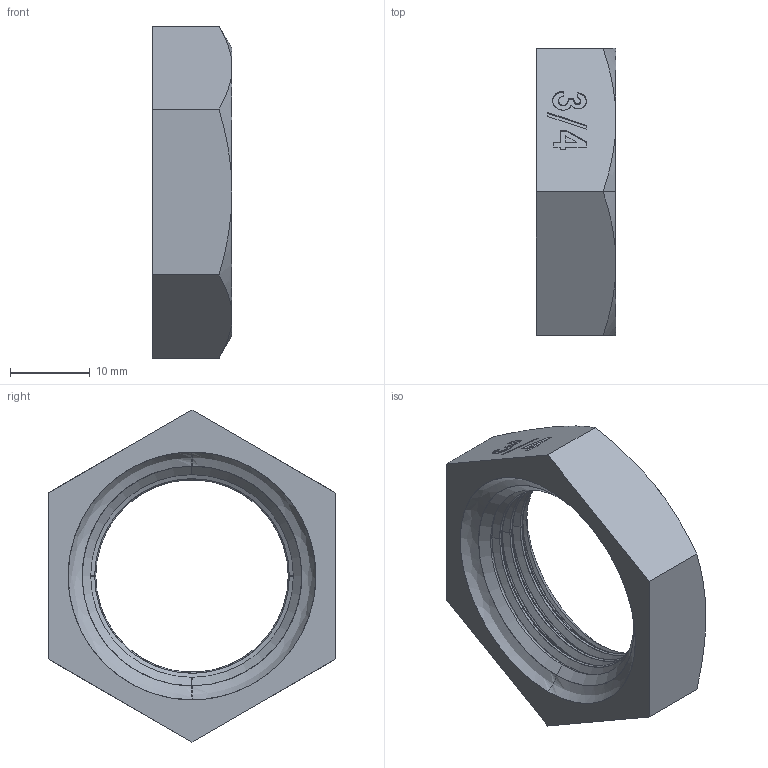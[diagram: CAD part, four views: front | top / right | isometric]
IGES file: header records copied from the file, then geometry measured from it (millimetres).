
Start section: SolidWorks IGES file using analytic representation for surfaces
Global section: file name: C:\Users\Joel Rosa\Desktop\Tubulação\12-06-XXX\12-06-006.IGS; native system: SolidWorks 2011; preprocessor: SolidWorks 2011; author: Joel Rosa; date: 130806.181833; units: millimetre
Bounding box: 10 x 36 x 41.57 mm (x, y, z)
Surface area: 3444.9 mm2 (no closed solid volume)
Topology: 0 solids, 0 shells, 163 faces, 1671 edges, 1671 vertices
Faces by surface type: bspline 136, revolution 27
